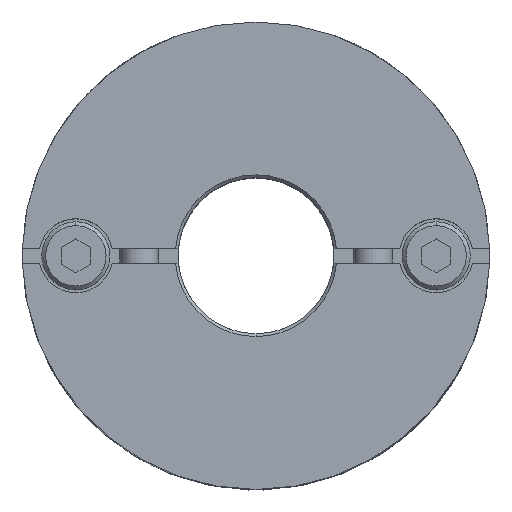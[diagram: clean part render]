
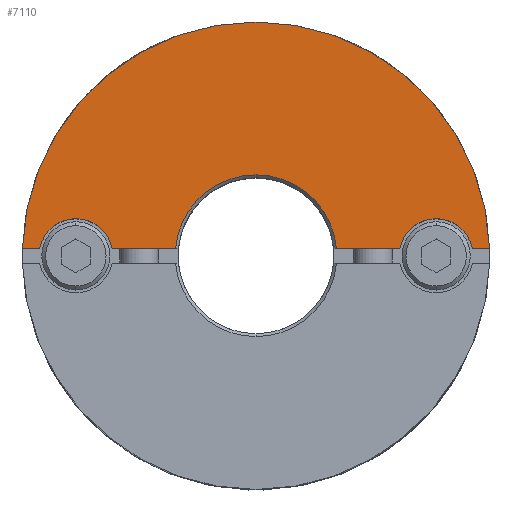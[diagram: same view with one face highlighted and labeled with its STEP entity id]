
A CAD part, top view. The second image highlights one B-rep face of the part: STEP entity #7110.
In plain terms, the highlighted planar face has unit normal (0, 0, 1).
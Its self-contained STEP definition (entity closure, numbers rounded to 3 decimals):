
#553=CARTESIAN_POINT('',(0.,8.3,19.3));
#554=VERTEX_POINT('',#553);
#563=CARTESIAN_POINT('',(-8.266,0.75,19.3));
#564=VERTEX_POINT('',#563);
#565=CARTESIAN_POINT('',(0.,0.,19.3));
#566=DIRECTION('',(0.0,0.0,1.0));
#567=DIRECTION('',(0.0,-1.0,0.0));
#568=AXIS2_PLACEMENT_3D('',#565,#566,#567);
#569=CIRCLE('',#568,8.3);
#570=EDGE_CURVE('',#554,#564,#569,.T.);
#742=CARTESIAN_POINT('',(0.,24.,19.3));
#743=VERTEX_POINT('',#742);
#827=CARTESIAN_POINT('',(-23.988,0.75,19.3));
#828=VERTEX_POINT('',#827);
#835=CARTESIAN_POINT('',(0.,0.,19.3));
#836=DIRECTION('',(0.0,0.0,-1.0));
#837=DIRECTION('',(0.0,1.0,0.0));
#838=AXIS2_PLACEMENT_3D('',#835,#836,#837);
#839=CIRCLE('',#838,24.0);
#840=EDGE_CURVE('',#828,#743,#839,.T.);
#1041=CARTESIAN_POINT('',(-18.5,3.8,19.3));
#1042=VERTEX_POINT('',#1041);
#1051=CARTESIAN_POINT('',(-22.225,0.75,19.3));
#1052=VERTEX_POINT('',#1051);
#1053=CARTESIAN_POINT('',(-18.5,0.,19.3));
#1054=DIRECTION('',(0.0,0.0,-1.0));
#1055=DIRECTION('',(0.0,1.0,0.0));
#1056=AXIS2_PLACEMENT_3D('',#1053,#1054,#1055);
#1057=CIRCLE('',#1056,3.8);
#1058=EDGE_CURVE('',#1052,#1042,#1057,.T.);
#1125=CARTESIAN_POINT('',(18.5,3.8,19.3));
#1126=VERTEX_POINT('',#1125);
#1135=CARTESIAN_POINT('',(14.775,0.75,19.3));
#1136=VERTEX_POINT('',#1135);
#1137=CARTESIAN_POINT('',(18.5,0.,19.3));
#1138=DIRECTION('',(0.0,0.0,-1.0));
#1139=DIRECTION('',(0.0,1.0,0.0));
#1140=AXIS2_PLACEMENT_3D('',#1137,#1138,#1139);
#1141=CIRCLE('',#1140,3.8);
#1142=EDGE_CURVE('',#1136,#1126,#1141,.T.);
#6786=CARTESIAN_POINT('',(22.225,0.75,19.3));
#6787=VERTEX_POINT('',#6786);
#6794=CARTESIAN_POINT('',(18.5,0.,19.3));
#6795=DIRECTION('',(0.0,0.0,-1.0));
#6796=DIRECTION('',(0.0,1.0,0.0));
#6797=AXIS2_PLACEMENT_3D('',#6794,#6795,#6796);
#6798=CIRCLE('',#6797,3.8);
#6799=EDGE_CURVE('',#1126,#6787,#6798,.T.);
#6852=CARTESIAN_POINT('',(-14.775,0.75,19.3));
#6853=VERTEX_POINT('',#6852);
#6860=CARTESIAN_POINT('',(-18.5,0.,19.3));
#6861=DIRECTION('',(0.0,0.0,-1.0));
#6862=DIRECTION('',(0.0,1.0,0.0));
#6863=AXIS2_PLACEMENT_3D('',#6860,#6861,#6862);
#6864=CIRCLE('',#6863,3.8);
#6865=EDGE_CURVE('',#1042,#6853,#6864,.T.);
#6884=CARTESIAN_POINT('',(23.988,0.75,19.3));
#6885=VERTEX_POINT('',#6884);
#6892=CARTESIAN_POINT('',(22.225,0.75,19.3));
#6893=DIRECTION('',(1.0,0.0,0.0));
#6894=VECTOR('',#6893,1.763);
#6895=LINE('',#6892,#6894);
#6896=EDGE_CURVE('',#6787,#6885,#6895,.T.);
#6907=CARTESIAN_POINT('',(8.266,0.75,19.3));
#6908=VERTEX_POINT('',#6907);
#6909=CARTESIAN_POINT('',(8.266,0.75,19.3));
#6910=DIRECTION('',(1.0,0.0,0.0));
#6911=VECTOR('',#6910,6.509);
#6912=LINE('',#6909,#6911);
#6913=EDGE_CURVE('',#6908,#1136,#6912,.T.);
#7069=CARTESIAN_POINT('',(0.,2.182,19.3));
#7070=DIRECTION('',(0.0,0.0,1.0));
#7071=DIRECTION('',(0.0,1.0,0.0));
#7072=AXIS2_PLACEMENT_3D('',#7069,#7070,#7071);
#7073=PLANE('',#7072);
#7074=ORIENTED_EDGE('',*,*,#1142,.T.);
#7075=ORIENTED_EDGE('',*,*,#6799,.T.);
#7076=ORIENTED_EDGE('',*,*,#6896,.T.);
#7077=CARTESIAN_POINT('',(0.,0.,19.3));
#7078=DIRECTION('',(0.0,0.0,-1.0));
#7079=DIRECTION('',(0.0,1.0,0.0));
#7080=AXIS2_PLACEMENT_3D('',#7077,#7078,#7079);
#7081=CIRCLE('',#7080,24.0);
#7082=EDGE_CURVE('',#743,#6885,#7081,.T.);
#7083=ORIENTED_EDGE('',*,*,#7082,.F.);
#7084=ORIENTED_EDGE('',*,*,#840,.F.);
#7085=CARTESIAN_POINT('',(-23.988,0.75,19.3));
#7086=DIRECTION('',(1.0,0.0,0.0));
#7087=VECTOR('',#7086,1.763);
#7088=LINE('',#7085,#7087);
#7089=EDGE_CURVE('',#828,#1052,#7088,.T.);
#7090=ORIENTED_EDGE('',*,*,#7089,.T.);
#7091=ORIENTED_EDGE('',*,*,#1058,.T.);
#7092=ORIENTED_EDGE('',*,*,#6865,.T.);
#7093=CARTESIAN_POINT('',(-14.775,0.75,19.3));
#7094=DIRECTION('',(1.0,0.0,0.0));
#7095=VECTOR('',#7094,6.509);
#7096=LINE('',#7093,#7095);
#7097=EDGE_CURVE('',#6853,#564,#7096,.T.);
#7098=ORIENTED_EDGE('',*,*,#7097,.T.);
#7099=ORIENTED_EDGE('',*,*,#570,.F.);
#7100=CARTESIAN_POINT('',(0.,0.,19.3));
#7101=DIRECTION('',(0.0,0.0,1.0));
#7102=DIRECTION('',(0.0,-1.0,0.0));
#7103=AXIS2_PLACEMENT_3D('',#7100,#7101,#7102);
#7104=CIRCLE('',#7103,8.3);
#7105=EDGE_CURVE('',#6908,#554,#7104,.T.);
#7106=ORIENTED_EDGE('',*,*,#7105,.F.);
#7107=ORIENTED_EDGE('',*,*,#6913,.T.);
#7108=EDGE_LOOP('',(#7074,#7075,#7076,#7083,#7084,#7090,#7091,#7092,#7098,#7099,#7106,#7107));
#7109=FACE_OUTER_BOUND('',#7108,.T.);
#7110=ADVANCED_FACE('',(#7109),#7073,.T.);
